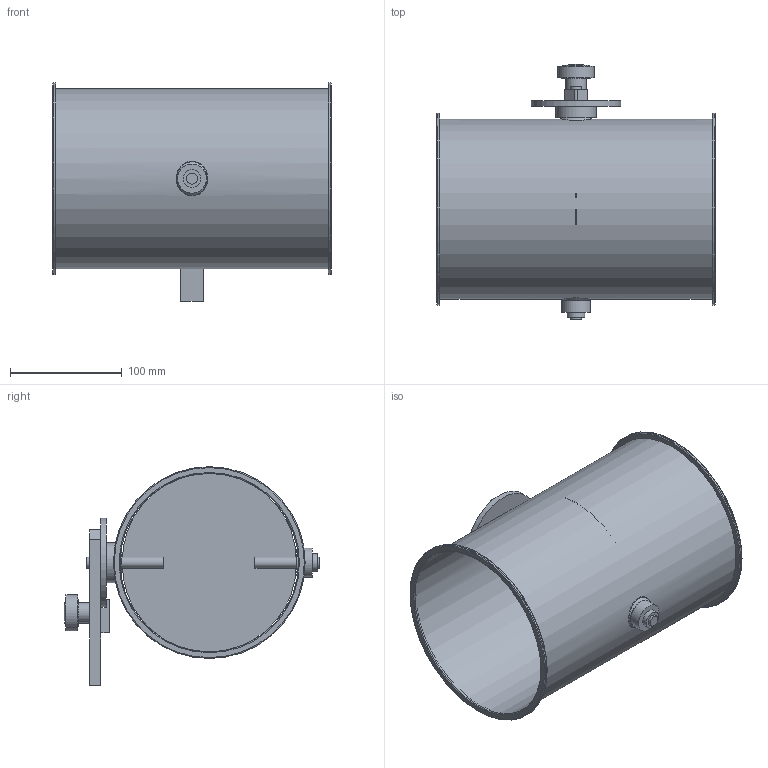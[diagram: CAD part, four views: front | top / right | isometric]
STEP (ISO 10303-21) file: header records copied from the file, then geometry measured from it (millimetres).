
FILE_DESCRIPTION(/* description */ (''),/* implementation_level */ '2;1');
FILE_NAME(/* name */ 'METU_Drosselklappe_Flansch_verzinkt_EA125-80B__160_L250_handbetaetigt.stp',/* time_stamp */ '2022-04-22T14:27:16+02:00',/* author */ (''),/* organization */ (''),/* preprocessor_version */ 'ST-DEVELOPER v11',/* originating_system */ 'SIEMENS UGS NX 6.0',/* authorisation */ '');
FILE_SCHEMA (('CONFIG_CONTROL_DESIGN'));
Length unit declared in the file: millimetre
Products named in the file (1): d.ga332Aq90o
Bounding box: 250 x 228.97 x 196 mm (x, y, z)
Volume: 231173.6 mm3; surface area: 342693.3 mm2
Topology: 12 solids, 12 shells, 100 faces, 204 edges, 139 vertices
Faces by surface type: plane 46, cylinder 34, torus 10, cone 4, bspline 4, sphere 2
Full cylindrical faces by diameter (mm): 4.2 x1, 4.4 x4, 5 x1, 6 x1, 10 x5, 15 x3, 15.85 x2, 16 x2, 18.5 x1, 24 x2, 25 x1, 26 x1, 32.5 x1, 36 x1, 80 x1, 160 x1, 161.6 x1, 172 x2
Entity records: 2904 total; most frequent: CARTESIAN_POINT 951, DIRECTION 400, ORIENTED_EDGE 264, EDGE_LOOP 190, AXIS2_PLACEMENT_3D 179, FACE_BOUND 168, EDGE_CURVE 132, VERTEX_POINT 116
